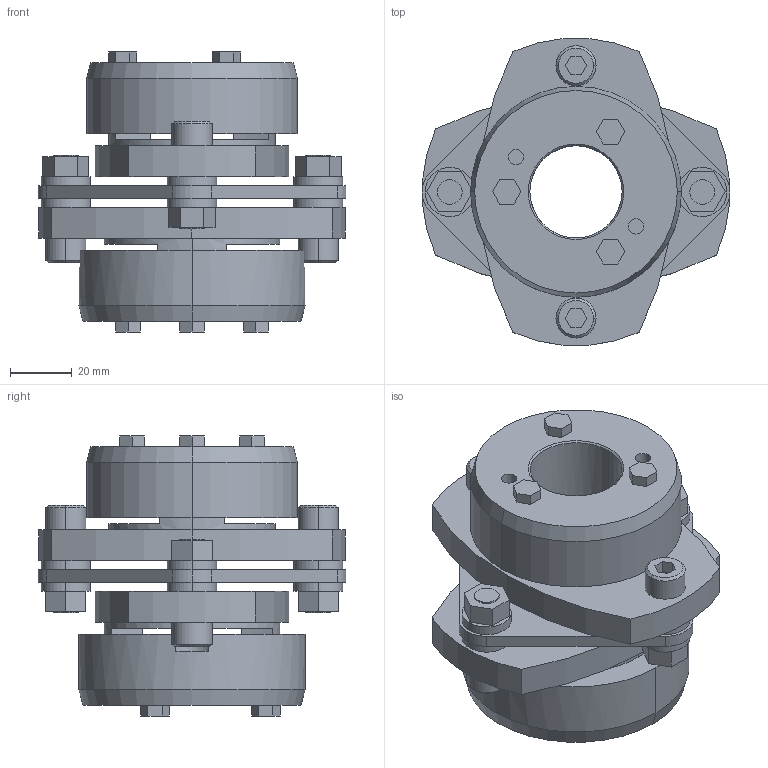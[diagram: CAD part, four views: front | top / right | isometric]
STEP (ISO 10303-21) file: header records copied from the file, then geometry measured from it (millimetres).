
FILE_DESCRIPTION((''),'2;1');
FILE_NAME('LCS-100T7-30×35.stp','2011-09-09T08:03:19',(''),(''),'AutoCAD STEP 2000i','AutoCAD 2000i',', , ');
FILE_SCHEMA(('CONFIG_CONTROL_DESIGN'));
Length unit declared in the file: millimetre
Products named in the file (10): LCS-100T7-30×35; 忣兜1; LC100T7-T035; LC100T7-T030-1; LC100T7-T030; LC100T7-T025-1; LC100T7-T025; LC100T7-T022-1; LC100T7-T022; LCS100-ITA
Assembly tree (9 placements, depth 2):
  LCS-100T7-30×35
    忣兜1
    LC100T7-T035
    LC100T7-T030-1
    LC100T7-T030
    LC100T7-T025-1
    LC100T7-T025
    LC100T7-T022-1
    LC100T7-T022
    LCS100-ITA
Bounding box: 100 x 99.93 x 91 mm (x, y, z)
Volume: 270935.2 mm3; surface area: 66005.9 mm2
Topology: 1 solids, 1 shells, 236 faces, 580 edges, 380 vertices
Faces by surface type: plane 134, cylinder 82, cone 20
Entity records: 7245 total; most frequent: DIRECTION 1276, CARTESIAN_POINT 1206, ORIENTED_EDGE 1160, EDGE_CURVE 580, AXIS2_PLACEMENT_3D 450, VERTEX_POINT 380, VECTOR 376, LINE 376
